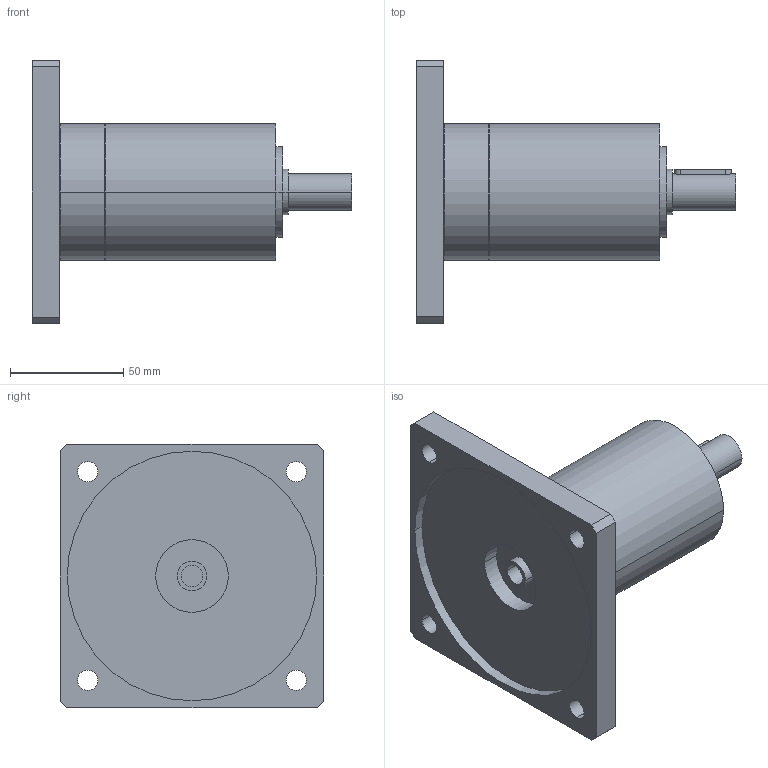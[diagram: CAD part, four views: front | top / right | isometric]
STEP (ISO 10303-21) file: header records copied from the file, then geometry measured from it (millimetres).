
FILE_DESCRIPTION(('CoCreate Modeling STEP Export'),'2;1');
FILE_NAME('GPR75_ig-9-12-16-20-24-30-36_16_B14_9.52_P09.stp','2014-08-25T16:06:36',(''),(''),'CoCreate Modeling STEP processor for AP214 (Solid Model)','CoCreate Modeling 16.00C 25-Feb-2009 (C) Parametric Technology GmbH','');
FILE_SCHEMA(('AUTOMOTIVE_DESIGN { 1 0 10303 214 1 1 1 1 }'));
Length unit declared in the file: millimetre
Products named in the file (2): GPR75_ig-9-12-16-20-24-30-36_16_B14_9.52_P09
Assembly tree (1 placements, depth 2):
  GPR75_ig-9-12-16-20-24-30-36_16_B14_9.52_P09
    GPR75_ig-9-12-16-20-24-30-36_16_B14_9.52_P09
Bounding box: 140.9 x 116 x 116 mm (x, y, z)
Volume: 387820.9 mm3; surface area: 57302.7 mm2
Topology: 1 solids, 1 shells, 70 faces, 187 edges, 131 vertices
Faces by surface type: cylinder 42, plane 22, cone 6
Entity records: 1934 total; most frequent: ORIENTED_EDGE 370, CARTESIAN_POINT 359, DIRECTION 262, EDGE_CURVE 185, VERTEX_POINT 131, AXIS2_PLACEMENT_3D 98, EDGE_LOOP 92, FACE_OUTER_BOUND 70
